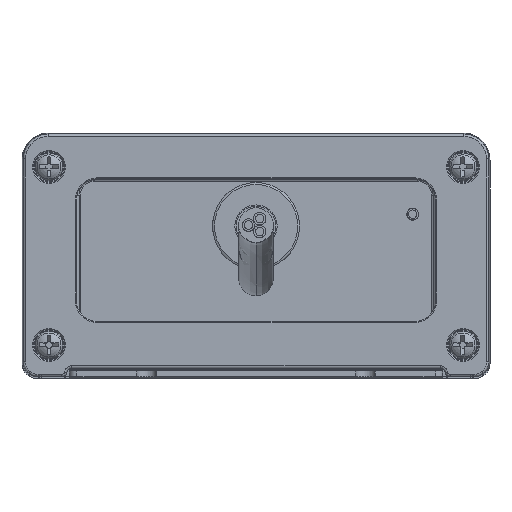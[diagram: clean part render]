
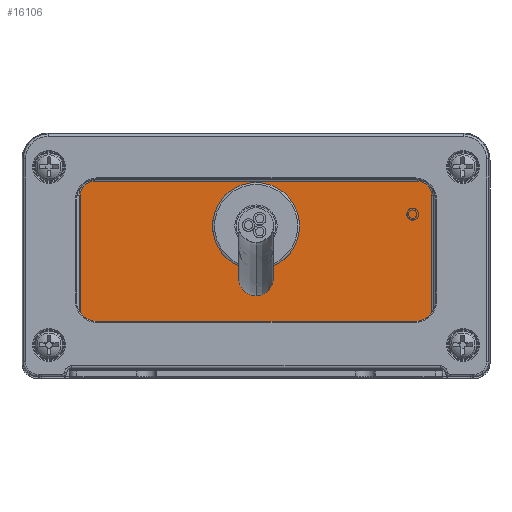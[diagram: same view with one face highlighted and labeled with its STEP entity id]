
A CAD part, top view. The second image highlights one B-rep face of the part: STEP entity #16106.
In plain terms, the highlighted planar face has unit normal (0, 0, 1).
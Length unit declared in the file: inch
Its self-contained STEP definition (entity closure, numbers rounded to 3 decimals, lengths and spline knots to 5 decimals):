
#1001=LINE('',#30478,#2223);
#1002=LINE('',#30482,#2224);
#1003=LINE('',#30486,#2225);
#1004=LINE('',#30489,#2226);
#2223=VECTOR('',#21100,0.98425);
#2224=VECTOR('',#21103,2.55906);
#2225=VECTOR('',#21106,0.98425);
#2226=VECTOR('',#21109,2.55906);
#3149=PLANE('',#17493);
#3443=FACE_BOUND('',#5223,.T.);
#4143=FACE_OUTER_BOUND('',#5222,.T.);
#5222=EDGE_LOOP('',(#12864,#12865,#12866,#12867,#12868,#12869,#12870,#12871));
#5223=EDGE_LOOP('',(#12872));
#6097=CIRCLE('',#17486,0.32874);
#6101=CIRCLE('',#17494,0.11142);
#6102=CIRCLE('',#17495,0.11142);
#6103=CIRCLE('',#17496,0.11142);
#6104=CIRCLE('',#17497,0.11142);
#7431=VERTEX_POINT('',#30462);
#7435=VERTEX_POINT('',#30474);
#7436=VERTEX_POINT('',#30475);
#7437=VERTEX_POINT('',#30477);
#7438=VERTEX_POINT('',#30479);
#7439=VERTEX_POINT('',#30481);
#7440=VERTEX_POINT('',#30483);
#7441=VERTEX_POINT('',#30485);
#7442=VERTEX_POINT('',#30487);
#9347=EDGE_CURVE('',#7431,#7431,#6097,.T.);
#9351=EDGE_CURVE('',#7435,#7436,#6101,.T.);
#9352=EDGE_CURVE('',#7437,#7435,#1001,.T.);
#9353=EDGE_CURVE('',#7438,#7437,#6102,.T.);
#9354=EDGE_CURVE('',#7439,#7438,#1002,.T.);
#9355=EDGE_CURVE('',#7440,#7439,#6103,.T.);
#9356=EDGE_CURVE('',#7441,#7440,#1003,.T.);
#9357=EDGE_CURVE('',#7442,#7441,#6104,.T.);
#9358=EDGE_CURVE('',#7436,#7442,#1004,.T.);
#12864=ORIENTED_EDGE('',*,*,#9351,.F.);
#12865=ORIENTED_EDGE('',*,*,#9352,.F.);
#12866=ORIENTED_EDGE('',*,*,#9353,.F.);
#12867=ORIENTED_EDGE('',*,*,#9354,.F.);
#12868=ORIENTED_EDGE('',*,*,#9355,.F.);
#12869=ORIENTED_EDGE('',*,*,#9356,.F.);
#12870=ORIENTED_EDGE('',*,*,#9357,.F.);
#12871=ORIENTED_EDGE('',*,*,#9358,.F.);
#12872=ORIENTED_EDGE('',*,*,#9347,.F.);
#16106=ADVANCED_FACE('',(#4143,#3443),#3149,.T.);
#17486=AXIS2_PLACEMENT_3D('',#30463,#21082,#21083);
#17493=AXIS2_PLACEMENT_3D('',#30473,#21096,#21097);
#17494=AXIS2_PLACEMENT_3D('',#30476,#21098,#21099);
#17495=AXIS2_PLACEMENT_3D('',#30480,#21101,#21102);
#17496=AXIS2_PLACEMENT_3D('',#30484,#21104,#21105);
#17497=AXIS2_PLACEMENT_3D('',#30488,#21107,#21108);
#21082=DIRECTION('center_axis',(0.,0.,1.));
#21083=DIRECTION('ref_axis',(-1.,0.,0.));
#21096=DIRECTION('center_axis',(0.,0.,1.));
#21097=DIRECTION('ref_axis',(1.,0.,0.));
#21098=DIRECTION('center_axis',(0.,0.,-1.));
#21099=DIRECTION('ref_axis',(-1.,0.,0.));
#21100=DIRECTION('',(0.,1.,0.));
#21101=DIRECTION('center_axis',(0.,0.,-1.));
#21102=DIRECTION('ref_axis',(0.,-1.,0.));
#21103=DIRECTION('',(-1.,0.,0.));
#21104=DIRECTION('center_axis',(0.,0.,-1.));
#21105=DIRECTION('ref_axis',(1.,0.,0.));
#21106=DIRECTION('',(0.,-1.,0.));
#21107=DIRECTION('center_axis',(0.,0.,-1.));
#21108=DIRECTION('ref_axis',(0.,1.,0.));
#21109=DIRECTION('',(1.,0.,0.));
#30462=CARTESIAN_POINT('',(0.32898,0.24803,4.58268));
#30463=CARTESIAN_POINT('Origin',(0.00024,0.24803,
4.58268));
#30473=CARTESIAN_POINT('Origin',(0.00024,0.,4.58268));
#30474=CARTESIAN_POINT('',(-1.3907,0.49213,4.58268));
#30475=CARTESIAN_POINT('',(-1.27928,0.60354,4.58268));
#30476=CARTESIAN_POINT('Origin',(-1.27928,0.49213,4.58268));
#30477=CARTESIAN_POINT('',(-1.3907,-0.49213,4.58268));
#30478=CARTESIAN_POINT('',(-1.3907,-0.49213,4.58268));
#30479=CARTESIAN_POINT('',(-1.27928,-0.60354,4.58268));
#30480=CARTESIAN_POINT('Origin',(-1.27928,-0.49213,4.58268));
#30481=CARTESIAN_POINT('',(1.27977,-0.60354,4.58268));
#30482=CARTESIAN_POINT('',(1.27977,-0.60354,4.58268));
#30483=CARTESIAN_POINT('',(1.39119,-0.49213,4.58268));
#30484=CARTESIAN_POINT('Origin',(1.27977,-0.49213,4.58268));
#30485=CARTESIAN_POINT('',(1.39119,0.49213,4.58268));
#30486=CARTESIAN_POINT('',(1.39119,0.49213,4.58268));
#30487=CARTESIAN_POINT('',(1.27977,0.60354,4.58268));
#30488=CARTESIAN_POINT('Origin',(1.27977,0.49213,4.58268));
#30489=CARTESIAN_POINT('',(-1.27928,0.60354,4.58268));
